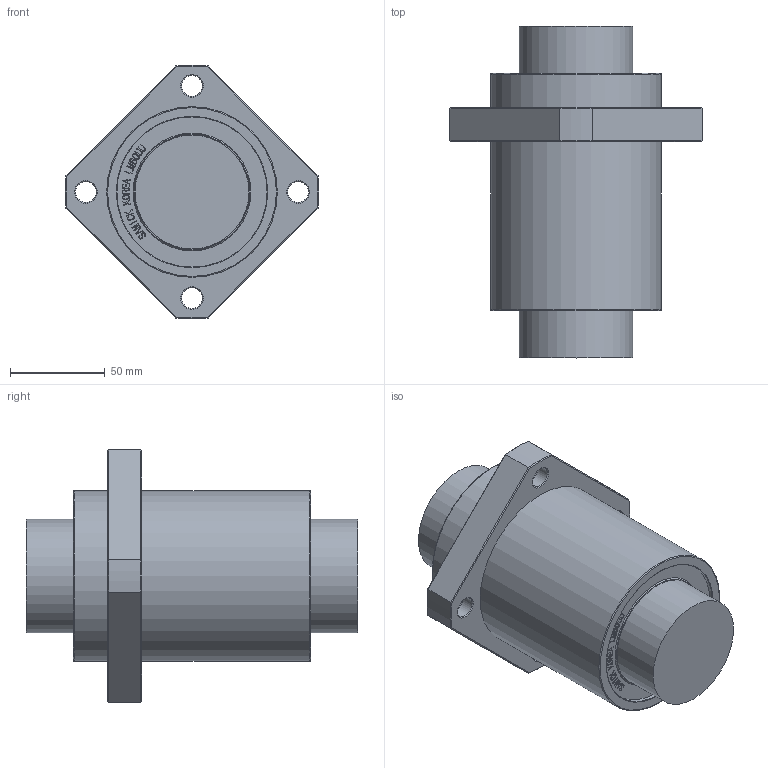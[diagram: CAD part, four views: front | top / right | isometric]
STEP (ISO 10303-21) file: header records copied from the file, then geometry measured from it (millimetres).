
FILE_DESCRIPTION(/* description */ (''),/* implementation_level */ '2;1');
FILE_NAME(/* name */ 'W:\(01) 2024년 홈페이지 CAD파일 최신화\LMEKP\IPT\LMEKP60UU.stp',/* time_stamp */ '2025-01-25T12:56:05+09:00',/* author */ ('서우현'),/* organization */ (''),/* preprocessor_version */ 'ST-DEVELOPER v17.2',/* originating_system */ 'Autodesk Inventor 2019',/* authorisation */ '');
FILE_SCHEMA (('AUTOMOTIVE_DESIGN { 1 0 10303 214 3 1 1 }'));
Length unit declared in the file: millimetre
Products named in the file (1): LM5
Bounding box: 133.88 x 175 x 133.88 mm (x, y, z)
Volume: 996748.9 mm3; surface area: 72778.1 mm2
Topology: 1 solids, 1 shells, 874 faces, 2442 edges, 1628 vertices
Faces by surface type: bspline 600, plane 234, cone 20, cylinder 18, torus 2
Full cylindrical faces by diameter (mm): 11 x4, 17.5 x4, 60 x2, 79.2 x2, 90 x2
Entity records: 29896 total; most frequent: CARTESIAN_POINT 11069, ORIENTED_EDGE 4884, EDGE_CURVE 2442, DIRECTION 1866, VERTEX_POINT 1628, B_SPLINE_CURVE_WITH_KNOTS 1200, LINE 1136, VECTOR 1136
